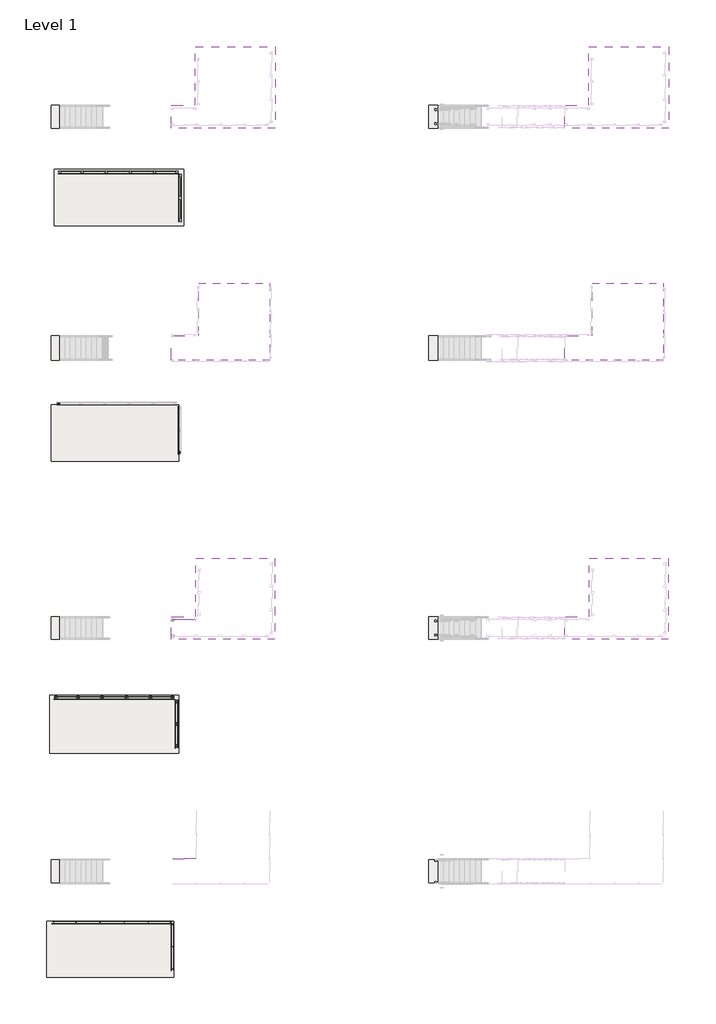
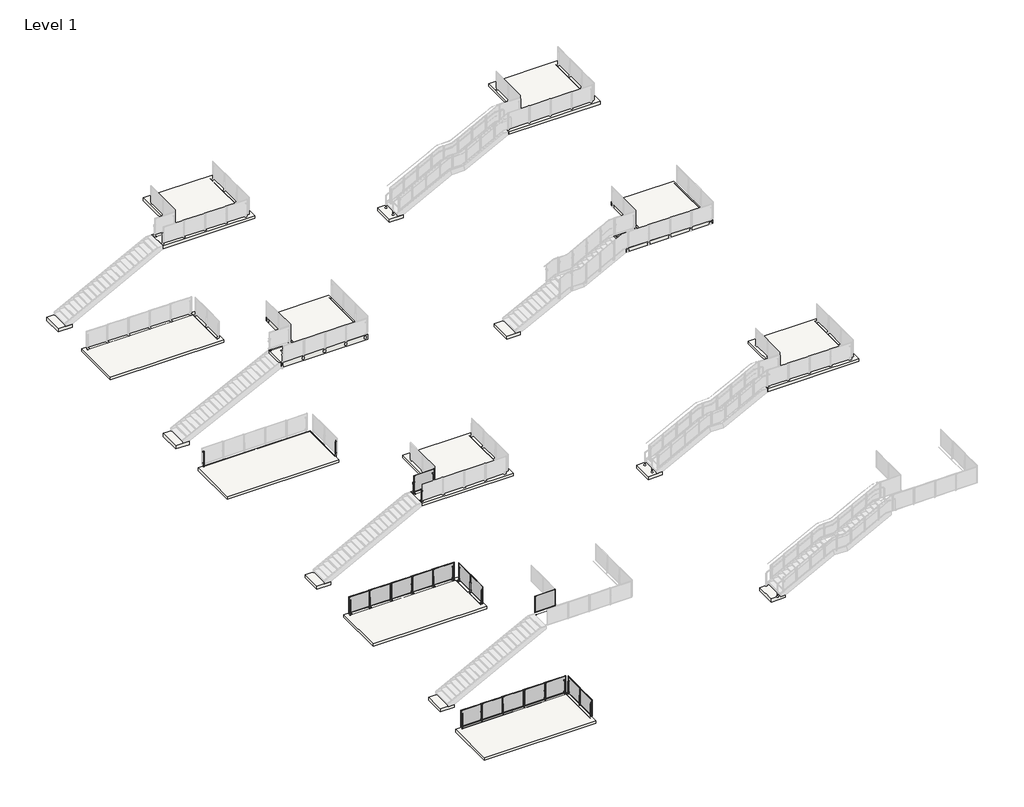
# One storey, part 1 of 28: 18 slabs, 12 proxies, 6 railings.
"""IFC4 building model written with IfcOpenShell, lengths in millimetres."""

from ifc_helpers import new_model, si_unit, point, frame, frame_2d, origin, origin_with_axes, place, context, project, spatial, polyline, circle_curve, trimmed, segment, composite_curve, outline, extrude, transform, mapped, element, save
from components import building_element_proxy_d87515a7, building_element_proxy_a79f7dfa, building_element_proxy_f0dd287b, building_element_proxy_dd0e699c, building_element_proxy_88367a16, building_element_proxy_bd17ef1f, building_element_proxy_0a0706d1

model = new_model("IFC4")

# Units and contexts
model_context = context("Model", 3, world=origin())
ifc_project = project(units=[si_unit("LENGTHUNIT", "METRE", prefix="MILLI")], contexts=[model_context])

# Site, building, storey
site = spatial("IfcSite", under=ifc_project)
building = spatial("IfcBuilding", under=site)
storey = spatial("IfcBuildingStorey", under=building, Name="Level 1", Elevation=0.0)

# Proxies
placement = place(None, origin())
building_element_proxy_shape = building_element_proxy_d87515a7(model_context)
element("IfcBuildingElementProxy", 1, Name="Baluster-End-Post-VIVA-STRUC-Top Mount : ANCHORED TO CONCRETE_TOP MOUNT STRUC_STRAIGHT", ObjectType="Baluster-End-Post-VIVA-STRUC-Top Mount : ANCHORED TO CONCRETE_TOP MOUNT STRUC_STRAIGHT", at=placement, inside=storey, context=model_context, shape_type="MappedRepresentation", body=[
    mapped(building_element_proxy_shape, transform((-32907.4137821, -21750.6777859, -0.508), x_axis=(-1.0, 0.0, 0.0), y_axis=(0.0, -1.0, 0.0), z_axis=(0.0, 0.0, 1.0))),
])
building_element_proxy_2_shape = building_element_proxy_a79f7dfa(model_context)
element("IfcBuildingElementProxy", 2, Name="Baluster-End-Post-VIVA-STRUC-Top Mount : WELDED STEEL CHANNEL_TOP MOUNT STRUC_STRAIGHT", ObjectType="Baluster-End-Post-VIVA-STRUC-Top Mount : WELDED STEEL CHANNEL_TOP MOUNT STRUC_STRAIGHT", at=placement, inside=storey, context=model_context, shape_type="MappedRepresentation", body=[
    mapped(building_element_proxy_2_shape, transform((-33016.7678099, -33571.9733743, -0.508), x_axis=(-1.0, 0.0, 0.0), y_axis=(0.0, -1.0, 0.0), z_axis=(0.0, 0.0, 1.0))),
])
building_element_proxy_3_shape = building_element_proxy_f0dd287b(model_context)
element("IfcBuildingElementProxy", 3, Name="Baluster-End-Post-VIVA-STRUC-Top Mount : WELDED Fascia MOUNT STRUC_STRAIGHT", ObjectType="Baluster-End-Post-VIVA-STRUC-Top Mount : WELDED Fascia MOUNT STRUC_STRAIGHT", at=placement, inside=storey, context=model_context, shape_type="MappedRepresentation", body=[
    mapped(building_element_proxy_3_shape, transform((-32705.8487034, -8860.5967002, -0.508), x_axis=(0.0, 1.0, 0.0), y_axis=(-1.0, 0.0, 0.0), z_axis=(0.0, 0.0, 1.0))),
])
building_element_proxy_4_shape = building_element_proxy_dd0e699c(model_context)
element("IfcBuildingElementProxy", 4, Name="Baluster-End-Post-VIVA-STRUC-Top Mount : WELDED STEEL CHANNEL_TOP MOUNT STRUC_STRAIGHT", ObjectType="Baluster-End-Post-VIVA-STRUC-Top Mount : WELDED STEEL CHANNEL_TOP MOUNT STRUC_STRAIGHT", at=placement, inside=storey, context=model_context, shape_type="MappedRepresentation", body=[
    mapped(building_element_proxy_4_shape, transform((-33077.7262871, -33517.4255817, -0.508), x_axis=(0.0, 1.0, 0.0), y_axis=(-1.0, 0.0, 0.0), z_axis=(0.0, 0.0, 1.0))),
])
element("IfcBuildingElementProxy", 5, Name="Baluster-End-Post-VIVA-STRUC-Top Mount : WELDED STEEL CHANNEL_TOP MOUNT STRUC_STRAIGHT", ObjectType="Baluster-End-Post-VIVA-STRUC-Top Mount : WELDED STEEL CHANNEL_TOP MOUNT STRUC_STRAIGHT", at=placement, inside=storey, context=model_context, shape_type="MappedRepresentation", body=[
    mapped(building_element_proxy_2_shape, transform((-33077.7262871, -36057.4255817, -0.508), x_axis=(0.0, 1.0, 0.0), y_axis=(-1.0, 0.0, 0.0), z_axis=(0.0, 0.0, 1.0))),
])
building_element_proxy_5_shape = building_element_proxy_88367a16(model_context)
element("IfcBuildingElementProxy", 6, Name="Baluster-End-Post-VIVA-STRUC-Top Mount : ANCHORED TO CONCRETE_TOP MOUNT STRUC_STRAIGHT", ObjectType="Baluster-End-Post-VIVA-STRUC-Top Mount : ANCHORED TO CONCRETE_TOP MOUNT STRUC_STRAIGHT", at=placement, inside=storey, context=model_context, shape_type="MappedRepresentation", body=[
    mapped(building_element_proxy_5_shape, transform((-32869.9472593, -21788.2049932, -0.508), x_axis=(0.0, 1.0, 0.0), y_axis=(-1.0, 0.0, 0.0), z_axis=(0.0, 0.0, 1.0))),
])
element("IfcBuildingElementProxy", 7, Name="Baluster-End-Post-VIVA-STRUC-Top Mount : ANCHORED TO CONCRETE_TOP MOUNT STRUC_STRAIGHT", ObjectType="Baluster-End-Post-VIVA-STRUC-Top Mount : ANCHORED TO CONCRETE_TOP MOUNT STRUC_STRAIGHT", at=placement, inside=storey, context=model_context, shape_type="MappedRepresentation", body=[
    mapped(building_element_proxy_shape, transform((-32869.9472593, -24328.2049932, -0.508), x_axis=(0.0, 1.0, 0.0), y_axis=(-1.0, 0.0, 0.0), z_axis=(0.0, 0.0, 1.0))),
])
element("IfcBuildingElementProxy", 8, Name="Baluster-End-Post-VIVA-STRUC-Top Mount : ANCHORED TO CONCRETE_TOP MOUNT STRUC_STRAIGHT", ObjectType="Baluster-End-Post-VIVA-STRUC-Top Mount : ANCHORED TO CONCRETE_TOP MOUNT STRUC_STRAIGHT", at=placement, inside=storey, context=model_context, shape_type="MappedRepresentation", body=[
    mapped(building_element_proxy_5_shape, transform((-39257.4137821, -21750.6777859, -0.508), x_axis=(-1.0, 0.0, 0.0), y_axis=(0.0, -1.0, 0.0), z_axis=(0.0, 0.0, 1.0))),
])
element("IfcBuildingElementProxy", 9, Name="Baluster-End-Post-VIVA-STRUC-Top Mount : WELDED STEEL CHANNEL_TOP MOUNT STRUC_STRAIGHT", ObjectType="Baluster-End-Post-VIVA-STRUC-Top Mount : WELDED STEEL CHANNEL_TOP MOUNT STRUC_STRAIGHT", at=placement, inside=storey, context=model_context, shape_type="MappedRepresentation", body=[
    mapped(building_element_proxy_4_shape, transform((-39366.7678099, -33571.9733743, -0.508), x_axis=(-1.0, 0.0, 0.0), y_axis=(0.0, -1.0, 0.0), z_axis=(0.0, 0.0, 1.0))),
])
building_element_proxy_6_shape = building_element_proxy_bd17ef1f(model_context)
element("IfcBuildingElementProxy", 10, Name="Baluster-End-Post-VIVA-STRUC-Top Mount : WELDED Fascia MOUNT STRUC_STRAIGHT", ObjectType="Baluster-End-Post-VIVA-STRUC-Top Mount : WELDED Fascia MOUNT STRUC_STRAIGHT", at=placement, inside=storey, context=model_context, shape_type="MappedRepresentation", body=[
    mapped(building_element_proxy_6_shape, transform((-39120.1701703, -6257.9599803, -0.508), x_axis=(-1.0, 0.0, 0.0), y_axis=(0.0, -1.0, 0.0), z_axis=(0.0, 0.0, 1.0))),
])
building_element_proxy_7_shape = building_element_proxy_0a0706d1(model_context)
element("IfcBuildingElementProxy", 11, Name="Baluster-End-Post-VIVA-STRUC-Top Mount-Stair : ANCHORED TO CONCRETE_TOP MOUNT STRUC_STAIR", ObjectType="Baluster-End-Post-VIVA-STRUC-Top Mount-Stair : ANCHORED TO CONCRETE_TOP MOUNT STRUC_STAIR", at=placement, inside=storey, context=model_context, shape_type="MappedRepresentation", body=[
    mapped(building_element_proxy_7_shape, transform((-33016.8813244, -18320.1106387, 3556.635), x_axis=(1.0, 0.0, 0.0), y_axis=(0.0, 1.0, 0.0), z_axis=(0.0, 0.0, 1.0))),
])
element("IfcBuildingElementProxy", 12, Name="Baluster-End-Post-VIVA-STRUC-Top Mount-Stair : ANCHORED TO CONCRETE_TOP MOUNT STRUC_STAIR", ObjectType="Baluster-End-Post-VIVA-STRUC-Top Mount-Stair : ANCHORED TO CONCRETE_TOP MOUNT STRUC_STAIR", at=placement, inside=storey, context=model_context, shape_type="MappedRepresentation", body=[
    mapped(building_element_proxy_7_shape, transform((-33016.8813244, -17684.6002387, 3556.635), x_axis=(-1.0, 0.0, 0.0), y_axis=(0.0, -1.0, 0.0), z_axis=(0.0, 0.0, 1.0))),
])

# Railings
element("IfcRailing", 13, ObjectType="Metal-Panel-VIVA-STRUC-Slab-Top-Anchor-Straight", at=placement, inside=storey, context=model_context, shape_type="SweptSolid", body=[
    extrude(outline(composite_curve([segment(trimmed(circle_curve(frame_2d((-0.254, -32869.9472593)), 0.254), [point((-0.254, -32870.2012593))], [point((-0.254, -32869.6932593))], False, "CARTESIAN"), True, "CONTINUOUS"), segment(trimmed(circle_curve(frame_2d((-0.254, -32869.9472593)), 0.254), [point((-0.254, -32869.6932593))], [point((-0.254, -32870.2012593))], False, "CARTESIAN"), True, "CONTINUOUS")], self_intersect=False)), frame((0.0, -24328.2049932, 0.0), z_axis=(0.0, 1.0, 0.0), x_axis=(0.0, 0.0, 1.0)), (0.0, 0.0, 1.0), 2540.0),
    extrude(outline(composite_curve([segment(trimmed(circle_curve(frame_2d((-0.254, -32869.9472593)), 0.254), [point((-0.254, -32870.2012593))], [point((-0.254, -32869.6932593))], False, "CARTESIAN"), True, "CONTINUOUS"), segment(trimmed(circle_curve(frame_2d((-0.254, -32869.9472593)), 0.254), [point((-0.254, -32869.6932593))], [point((-0.254, -32870.2012593))], False, "CARTESIAN"), True, "CONTINUOUS")], self_intersect=False)), frame((0.0, -24328.2049932, 0.0), z_axis=(0.0, 1.0, 0.0), x_axis=(0.0, 0.0, 1.0)), (0.0, 0.0, 1.0), 2540.0),
    extrude(outline(polyline([(-32743.0982593, -23099.0314502), (-32743.0982593, -24287.3785363), (-32746.0982593, -24287.3785363), (-32746.0982593, -23099.0314502), (-32743.0982593, -23099.0314502)])), frame((0.0, 0.0, 76.1959569), z_axis=(0.0, 0.0, 1.0), x_axis=(1.0, 0.0, 0.0)), (0.0, 0.0, 1.0), 990.5826861),
    extrude(outline(polyline([(-23073.6314502, 1092.1786431), (-23073.6314502, 50.7959569), (-24312.7785363, 50.7959569), (-24312.7785363, 1092.1786431), (-23073.6314502, 1092.1786431)]), holes=[polyline([(-23099.0314502, 76.1959569), (-23099.0314502, 1066.7786431), (-24287.3785363, 1066.7786431), (-24287.3785363, 76.1959569), (-23099.0314502, 76.1959569)])]), frame((-32746.0982593, 0.0, 0.0), z_axis=(1.0, 0.0, 0.0), x_axis=(0.0, 1.0, 0.0)), (0.0, 0.0, 1.0), 9.525),
    extrude(outline(polyline([(-32753.2088593, -23020.104274), (-32746.0968593, -23020.104274), (-32746.0968593, -23096.3057125), (-32753.2088593, -23096.3057125), (-32753.2088593, -23020.104274)])), frame((0.0, 0.0, 569.976), z_axis=(0.0, 0.0, 1.0), x_axis=(1.0, 0.0, 0.0)), (0.0, 0.0, 1.0), 50.8),
    extrude(outline(polyline([(-32753.2088593, -23020.104274), (-32746.0968593, -23020.104274), (-32746.0968593, -23096.3057125), (-32753.2088593, -23096.3057125), (-32753.2088593, -23020.104274)])), frame((0.0, 0.0, 112.776), z_axis=(0.0, 0.0, 1.0), x_axis=(1.0, 0.0, 0.0)), (0.0, 0.0, 1.0), 50.8),
    extrude(outline(polyline([(-32841.3214593, -22992.3173932), (-32709.5462593, -22992.3173932), (-32709.5462593, -23124.0925932), (-32841.3214593, -23124.0925932), (-32841.3214593, -22992.3173932)])), origin_with_axes(), (0.0, 0.0, 1.0), 25.4),
    extrude(outline(polyline([(-32797.6588593, -23050.2654016), (-32753.2088593, -23050.2654016), (-32753.2088593, -23066.1445849), (-32797.6588593, -23066.1445849), (-32797.6588593, -23050.2654016)])), origin_with_axes(), (0.0, 0.0, 1.0), 660.4),
    extrude(outline(polyline([(-32743.0982593, -21829.0314502), (-32743.0982593, -23017.3785363), (-32746.0982593, -23017.3785363), (-32746.0982593, -21829.0314502), (-32743.0982593, -21829.0314502)])), frame((0.0, 0.0, 76.1959569), z_axis=(0.0, 0.0, 1.0), x_axis=(1.0, 0.0, 0.0)), (0.0, 0.0, 1.0), 990.5826861),
    extrude(outline(polyline([(-21803.6314502, 1092.1786431), (-21803.6314502, 50.7959569), (-23042.7785363, 50.7959569), (-23042.7785363, 1092.1786431), (-21803.6314502, 1092.1786431)]), holes=[polyline([(-21829.0314502, 76.1959569), (-21829.0314502, 1066.7786431), (-23017.3785363, 1066.7786431), (-23017.3785363, 76.1959569), (-21829.0314502, 76.1959569)])]), frame((-32746.0982593, 0.0, 0.0), z_axis=(1.0, 0.0, 0.0), x_axis=(0.0, 1.0, 0.0)), (0.0, 0.0, 1.0), 9.525),
])
element("IfcRailing", 14, ObjectType="Metal-Panel-VIVA-STRUC-Slab-Top-Anchor-Straight", at=placement, inside=storey, context=model_context, shape_type="SweptSolid", body=[
    extrude(outline(composite_curve([segment(trimmed(circle_curve(frame_2d((-21750.6777859, -0.254)), 0.254), [point((-21750.9317859, -0.254))], [point((-21750.4237859, -0.254))], False, "CARTESIAN"), True, "CONTINUOUS"), segment(trimmed(circle_curve(frame_2d((-21750.6777859, -0.254)), 0.254), [point((-21750.4237859, -0.254))], [point((-21750.9317859, -0.254))], False, "CARTESIAN"), True, "CONTINUOUS")], self_intersect=False)), frame((-39257.4137821, 0.0, 0.0), z_axis=(1.0, 0.0, 0.0), x_axis=(0.0, 1.0, 0.0)), (0.0, 0.0, 1.0), 6350.0),
    extrude(outline(composite_curve([segment(trimmed(circle_curve(frame_2d((-21750.6777859, -0.254)), 0.254), [point((-21750.9317859, -0.254))], [point((-21750.4237859, -0.254))], False, "CARTESIAN"), True, "CONTINUOUS"), segment(trimmed(circle_curve(frame_2d((-21750.6777859, -0.254)), 0.254), [point((-21750.4237859, -0.254))], [point((-21750.9317859, -0.254))], False, "CARTESIAN"), True, "CONTINUOUS")], self_intersect=False)), frame((-39257.4137821, 0.0, 0.0), z_axis=(1.0, 0.0, 0.0), x_axis=(0.0, 1.0, 0.0)), (0.0, 0.0, 1.0), 6350.0),
    extrude(outline(polyline([(-34136.5873251, -21623.8287859), (-32948.240239, -21623.8287859), (-32948.240239, -21626.8287859), (-34136.5873251, -21626.8287859), (-34136.5873251, -21623.8287859)])), frame((0.0, 0.0, 76.1959569), z_axis=(0.0, 0.0, 1.0), x_axis=(1.0, 0.0, 0.0)), (0.0, 0.0, 1.0), 990.5826861),
    extrude(outline(polyline([(1092.1786431, -34161.9873251), (50.7959569, -34161.9873251), (50.7959569, -32922.840239), (1092.1786431, -32922.840239), (1092.1786431, -34161.9873251)]), holes=[polyline([(76.1959569, -34136.5873251), (1066.7786431, -34136.5873251), (1066.7786431, -32948.240239), (76.1959569, -32948.240239), (76.1959569, -34136.5873251)])]), frame((0.0, -21626.8287859, 0.0), z_axis=(0.0, 1.0, 0.0), x_axis=(0.0, 0.0, 1.0)), (0.0, 0.0, 1.0), 9.525),
    extrude(outline(polyline([(-34215.5145013, -21633.9393859), (-34215.5145013, -21626.8273859), (-34139.3130628, -21626.8273859), (-34139.3130628, -21633.9393859), (-34215.5145013, -21633.9393859)])), frame((0.0, 0.0, 569.976), z_axis=(0.0, 0.0, 1.0), x_axis=(1.0, 0.0, 0.0)), (0.0, 0.0, 1.0), 50.8),
    extrude(outline(polyline([(-34215.5145013, -21633.9393859), (-34215.5145013, -21626.8273859), (-34139.3130628, -21626.8273859), (-34139.3130628, -21633.9393859), (-34215.5145013, -21633.9393859)])), frame((0.0, 0.0, 112.776), z_axis=(0.0, 0.0, 1.0), x_axis=(1.0, 0.0, 0.0)), (0.0, 0.0, 1.0), 50.8),
    extrude(outline(polyline([(-34243.3013821, -21722.0519859), (-34243.3013821, -21590.2767859), (-34111.5261821, -21590.2767859), (-34111.5261821, -21722.0519859), (-34243.3013821, -21722.0519859)])), origin_with_axes(), (0.0, 0.0, 1.0), 25.4),
    extrude(outline(polyline([(-34185.3533737, -21678.3893859), (-34185.3533737, -21633.9393859), (-34169.4741904, -21633.9393859), (-34169.4741904, -21678.3893859), (-34185.3533737, -21678.3893859)])), origin_with_axes(), (0.0, 0.0, 1.0), 660.4),
    extrude(outline(polyline([(-35406.5873251, -21623.8287859), (-34218.240239, -21623.8287859), (-34218.240239, -21626.8287859), (-35406.5873251, -21626.8287859), (-35406.5873251, -21623.8287859)])), frame((0.0, 0.0, 76.1959569), z_axis=(0.0, 0.0, 1.0), x_axis=(1.0, 0.0, 0.0)), (0.0, 0.0, 1.0), 990.5826861),
    extrude(outline(polyline([(1092.1786431, -35431.9873251), (50.7959569, -35431.9873251), (50.7959569, -34192.840239), (1092.1786431, -34192.840239), (1092.1786431, -35431.9873251)]), holes=[polyline([(76.1959569, -35406.5873251), (1066.7786431, -35406.5873251), (1066.7786431, -34218.240239), (76.1959569, -34218.240239), (76.1959569, -35406.5873251)])]), frame((0.0, -21626.8287859, 0.0), z_axis=(0.0, 1.0, 0.0), x_axis=(0.0, 0.0, 1.0)), (0.0, 0.0, 1.0), 9.525),
    extrude(outline(polyline([(-35485.5145013, -21633.9393859), (-35485.5145013, -21626.8273859), (-35409.3130628, -21626.8273859), (-35409.3130628, -21633.9393859), (-35485.5145013, -21633.9393859)])), frame((0.0, 0.0, 569.976), z_axis=(0.0, 0.0, 1.0), x_axis=(1.0, 0.0, 0.0)), (0.0, 0.0, 1.0), 50.8),
    extrude(outline(polyline([(-35485.5145013, -21633.9393859), (-35485.5145013, -21626.8273859), (-35409.3130628, -21626.8273859), (-35409.3130628, -21633.9393859), (-35485.5145013, -21633.9393859)])), frame((0.0, 0.0, 112.776), z_axis=(0.0, 0.0, 1.0), x_axis=(1.0, 0.0, 0.0)), (0.0, 0.0, 1.0), 50.8),
    extrude(outline(polyline([(-35513.3013821, -21722.0519859), (-35513.3013821, -21590.2767859), (-35381.5261821, -21590.2767859), (-35381.5261821, -21722.0519859), (-35513.3013821, -21722.0519859)])), origin_with_axes(), (0.0, 0.0, 1.0), 25.4),
    extrude(outline(polyline([(-35455.3533737, -21678.3893859), (-35455.3533737, -21633.9393859), (-35439.4741904, -21633.9393859), (-35439.4741904, -21678.3893859), (-35455.3533737, -21678.3893859)])), origin_with_axes(), (0.0, 0.0, 1.0), 660.4),
    extrude(outline(polyline([(-36676.5873251, -21623.8287859), (-35488.240239, -21623.8287859), (-35488.240239, -21626.8287859), (-36676.5873251, -21626.8287859), (-36676.5873251, -21623.8287859)])), frame((0.0, 0.0, 76.1959569), z_axis=(0.0, 0.0, 1.0), x_axis=(1.0, 0.0, 0.0)), (0.0, 0.0, 1.0), 990.5826861),
    extrude(outline(polyline([(1092.1786431, -36701.9873251), (50.7959569, -36701.9873251), (50.7959569, -35462.840239), (1092.1786431, -35462.840239), (1092.1786431, -36701.9873251)]), holes=[polyline([(76.1959569, -36676.5873251), (1066.7786431, -36676.5873251), (1066.7786431, -35488.240239), (76.1959569, -35488.240239), (76.1959569, -36676.5873251)])]), frame((0.0, -21626.8287859, 0.0), z_axis=(0.0, 1.0, 0.0), x_axis=(0.0, 0.0, 1.0)), (0.0, 0.0, 1.0), 9.525),
    extrude(outline(polyline([(-36755.5145013, -21633.9393859), (-36755.5145013, -21626.8273859), (-36679.3130628, -21626.8273859), (-36679.3130628, -21633.9393859), (-36755.5145013, -21633.9393859)])), frame((0.0, 0.0, 569.976), z_axis=(0.0, 0.0, 1.0), x_axis=(1.0, 0.0, 0.0)), (0.0, 0.0, 1.0), 50.8),
    extrude(outline(polyline([(-36755.5145013, -21633.9393859), (-36755.5145013, -21626.8273859), (-36679.3130628, -21626.8273859), (-36679.3130628, -21633.9393859), (-36755.5145013, -21633.9393859)])), frame((0.0, 0.0, 112.776), z_axis=(0.0, 0.0, 1.0), x_axis=(1.0, 0.0, 0.0)), (0.0, 0.0, 1.0), 50.8),
    extrude(outline(polyline([(-36783.3013821, -21722.0519859), (-36783.3013821, -21590.2767859), (-36651.5261821, -21590.2767859), (-36651.5261821, -21722.0519859), (-36783.3013821, -21722.0519859)])), origin_with_axes(), (0.0, 0.0, 1.0), 25.4),
    extrude(outline(polyline([(-36725.3533737, -21678.3893859), (-36725.3533737, -21633.9393859), (-36709.4741904, -21633.9393859), (-36709.4741904, -21678.3893859), (-36725.3533737, -21678.3893859)])), origin_with_axes(), (0.0, 0.0, 1.0), 660.4),
    extrude(outline(polyline([(-37946.5873251, -21623.8287859), (-36758.240239, -21623.8287859), (-36758.240239, -21626.8287859), (-37946.5873251, -21626.8287859), (-37946.5873251, -21623.8287859)])), frame((0.0, 0.0, 76.1959569), z_axis=(0.0, 0.0, 1.0), x_axis=(1.0, 0.0, 0.0)), (0.0, 0.0, 1.0), 990.5826861),
    extrude(outline(polyline([(1092.1786431, -37971.9873251), (50.7959569, -37971.9873251), (50.7959569, -36732.840239), (1092.1786431, -36732.840239), (1092.1786431, -37971.9873251)]), holes=[polyline([(76.1959569, -37946.5873251), (1066.7786431, -37946.5873251), (1066.7786431, -36758.240239), (76.1959569, -36758.240239), (76.1959569, -37946.5873251)])]), frame((0.0, -21626.8287859, 0.0), z_axis=(0.0, 1.0, 0.0), x_axis=(0.0, 0.0, 1.0)), (0.0, 0.0, 1.0), 9.525),
    extrude(outline(polyline([(-38025.5145013, -21633.9393859), (-38025.5145013, -21626.8273859), (-37949.3130628, -21626.8273859), (-37949.3130628, -21633.9393859), (-38025.5145013, -21633.9393859)])), frame((0.0, 0.0, 569.976), z_axis=(0.0, 0.0, 1.0), x_axis=(1.0, 0.0, 0.0)), (0.0, 0.0, 1.0), 50.8),
    extrude(outline(polyline([(-38025.5145013, -21633.9393859), (-38025.5145013, -21626.8273859), (-37949.3130628, -21626.8273859), (-37949.3130628, -21633.9393859), (-38025.5145013, -21633.9393859)])), frame((0.0, 0.0, 112.776), z_axis=(0.0, 0.0, 1.0), x_axis=(1.0, 0.0, 0.0)), (0.0, 0.0, 1.0), 50.8),
    extrude(outline(polyline([(-38053.3013821, -21722.0519859), (-38053.3013821, -21590.2767859), (-37921.5261821, -21590.2767859), (-37921.5261821, -21722.0519859), (-38053.3013821, -21722.0519859)])), origin_with_axes(), (0.0, 0.0, 1.0), 25.4),
    extrude(outline(polyline([(-37995.3533737, -21678.3893859), (-37995.3533737, -21633.9393859), (-37979.4741904, -21633.9393859), (-37979.4741904, -21678.3893859), (-37995.3533737, -21678.3893859)])), origin_with_axes(), (0.0, 0.0, 1.0), 660.4),
    extrude(outline(polyline([(-39216.5873251, -21623.8287859), (-38028.240239, -21623.8287859), (-38028.240239, -21626.8287859), (-39216.5873251, -21626.8287859), (-39216.5873251, -21623.8287859)])), frame((0.0, 0.0, 76.1959569), z_axis=(0.0, 0.0, 1.0), x_axis=(1.0, 0.0, 0.0)), (0.0, 0.0, 1.0), 990.5826861),
    extrude(outline(polyline([(1092.1786431, -39241.9873251), (50.7959569, -39241.9873251), (50.7959569, -38002.840239), (1092.1786431, -38002.840239), (1092.1786431, -39241.9873251)]), holes=[polyline([(76.1959569, -39216.5873251), (1066.7786431, -39216.5873251), (1066.7786431, -38028.240239), (76.1959569, -38028.240239), (76.1959569, -39216.5873251)])]), frame((0.0, -21626.8287859, 0.0), z_axis=(0.0, 1.0, 0.0), x_axis=(0.0, 0.0, 1.0)), (0.0, 0.0, 1.0), 9.525),
])
element("IfcRailing", 15, ObjectType="Metal-Panel-VIVA-STRUC-Slab-Top-Weld-Straight", at=placement, inside=storey, context=model_context, shape_type="SweptSolid", body=[
    extrude(outline(composite_curve([segment(trimmed(circle_curve(frame_2d((-0.254, -33077.7262871)), 0.254), [point((-0.254, -33077.9802871))], [point((-0.254, -33077.4722871))], False, "CARTESIAN"), True, "CONTINUOUS"), segment(trimmed(circle_curve(frame_2d((-0.254, -33077.7262871)), 0.254), [point((-0.254, -33077.4722871))], [point((-0.254, -33077.9802871))], False, "CARTESIAN"), True, "CONTINUOUS")], self_intersect=False)), frame((0.0, -36057.4255817, 0.0), z_axis=(0.0, 1.0, 0.0), x_axis=(0.0, 0.0, 1.0)), (0.0, 0.0, 1.0), 2540.0),
    extrude(outline(composite_curve([segment(trimmed(circle_curve(frame_2d((-0.254, -33077.7262871)), 0.254), [point((-0.254, -33077.9802871))], [point((-0.254, -33077.4722871))], False, "CARTESIAN"), True, "CONTINUOUS"), segment(trimmed(circle_curve(frame_2d((-0.254, -33077.7262871)), 0.254), [point((-0.254, -33077.4722871))], [point((-0.254, -33077.9802871))], False, "CARTESIAN"), True, "CONTINUOUS")], self_intersect=False)), frame((0.0, -36057.4255817, 0.0), z_axis=(0.0, 1.0, 0.0), x_axis=(0.0, 0.0, 1.0)), (0.0, 0.0, 1.0), 2540.0),
    extrude(outline(polyline([(-32950.8772871, -34828.2520386), (-32950.8772871, -36016.5991247), (-32953.8772871, -36016.5991247), (-32953.8772871, -34828.2520386), (-32950.8772871, -34828.2520386)])), frame((0.0, 0.0, 76.1959569), z_axis=(0.0, 0.0, 1.0), x_axis=(1.0, 0.0, 0.0)), (0.0, 0.0, 1.0), 990.5826861),
    extrude(outline(polyline([(-34802.8520386, 1092.1786431), (-34802.8520386, 50.7959569), (-36041.9991247, 50.7959569), (-36041.9991247, 1092.1786431), (-34802.8520386, 1092.1786431)]), holes=[polyline([(-34828.2520386, 76.1959569), (-34828.2520386, 1066.7786431), (-36016.5991247, 1066.7786431), (-36016.5991247, 76.1959569), (-34828.2520386, 76.1959569)])]), frame((-32953.8772871, 0.0, 0.0), z_axis=(1.0, 0.0, 0.0), x_axis=(0.0, 1.0, 0.0)), (0.0, 0.0, 1.0), 9.525),
    extrude(outline(polyline([(-32960.9878871, -34749.3248624), (-32953.8758871, -34749.3248624), (-32953.8758871, -34825.5263009), (-32960.9878871, -34825.5263009), (-32960.9878871, -34749.3248624)])), frame((0.0, 0.0, 569.976), z_axis=(0.0, 0.0, 1.0), x_axis=(1.0, 0.0, 0.0)), (0.0, 0.0, 1.0), 50.8),
    extrude(outline(polyline([(-32960.9878871, -34749.3248624), (-32953.8758871, -34749.3248624), (-32953.8758871, -34825.5263009), (-32960.9878871, -34825.5263009), (-32960.9878871, -34749.3248624)])), frame((0.0, 0.0, 112.776), z_axis=(0.0, 0.0, 1.0), x_axis=(1.0, 0.0, 0.0)), (0.0, 0.0, 1.0), 50.8),
    extrude(outline(polyline([(-33005.4378871, -34779.48599), (-32960.9878871, -34779.48599), (-32960.9878871, -34795.3651733), (-33005.4378871, -34795.3651733), (-33005.4378871, -34779.48599)])), origin_with_axes(), (0.0, 0.0, 1.0), 660.4),
    extrude(outline(polyline([(-32950.8772871, -33558.2520386), (-32950.8772871, -34746.5991247), (-32953.8772871, -34746.5991247), (-32953.8772871, -33558.2520386), (-32950.8772871, -33558.2520386)])), frame((0.0, 0.0, 76.1959569), z_axis=(0.0, 0.0, 1.0), x_axis=(1.0, 0.0, 0.0)), (0.0, 0.0, 1.0), 990.5826861),
    extrude(outline(polyline([(-33532.8520386, 1092.1786431), (-33532.8520386, 50.7959569), (-34771.9991247, 50.7959569), (-34771.9991247, 1092.1786431), (-33532.8520386, 1092.1786431)]), holes=[polyline([(-33558.2520386, 76.1959569), (-33558.2520386, 1066.7786431), (-34746.5991247, 1066.7786431), (-34746.5991247, 76.1959569), (-33558.2520386, 76.1959569)])]), frame((-32953.8772871, 0.0, 0.0), z_axis=(1.0, 0.0, 0.0), x_axis=(0.0, 1.0, 0.0)), (0.0, 0.0, 1.0), 9.525),
])
element("IfcRailing", 16, ObjectType="Metal-Panel-VIVA-STRUC-Slab-Top-Weld-Straight", at=placement, inside=storey, context=model_context, shape_type="SweptSolid", body=[
    extrude(outline(composite_curve([segment(trimmed(circle_curve(frame_2d((-33571.9733743, -0.254)), 0.254), [point((-33572.2273743, -0.254))], [point((-33571.7193743, -0.254))], False, "CARTESIAN"), True, "CONTINUOUS"), segment(trimmed(circle_curve(frame_2d((-33571.9733743, -0.254)), 0.254), [point((-33571.7193743, -0.254))], [point((-33572.2273743, -0.254))], False, "CARTESIAN"), True, "CONTINUOUS")], self_intersect=False)), frame((-39366.7678099, 0.0, 0.0), z_axis=(1.0, 0.0, 0.0), x_axis=(0.0, 1.0, 0.0)), (0.0, 0.0, 1.0), 6350.0),
    extrude(outline(composite_curve([segment(trimmed(circle_curve(frame_2d((-33571.9733743, -0.254)), 0.254), [point((-33572.2273743, -0.254))], [point((-33571.7193743, -0.254))], False, "CARTESIAN"), True, "CONTINUOUS"), segment(trimmed(circle_curve(frame_2d((-33571.9733743, -0.254)), 0.254), [point((-33571.7193743, -0.254))], [point((-33572.2273743, -0.254))], False, "CARTESIAN"), True, "CONTINUOUS")], self_intersect=False)), frame((-39366.7678099, 0.0, 0.0), z_axis=(1.0, 0.0, 0.0), x_axis=(0.0, 1.0, 0.0)), (0.0, 0.0, 1.0), 6350.0),
    extrude(outline(polyline([(-34245.9413529, -33445.1243743), (-33057.5942668, -33445.1243743), (-33057.5942668, -33448.1243743), (-34245.9413529, -33448.1243743), (-34245.9413529, -33445.1243743)])), frame((0.0, 0.0, 76.1959569), z_axis=(0.0, 0.0, 1.0), x_axis=(1.0, 0.0, 0.0)), (0.0, 0.0, 1.0), 990.5826861),
    extrude(outline(polyline([(1092.1786431, -34271.3413529), (50.7959569, -34271.3413529), (50.7959569, -33032.1942668), (1092.1786431, -33032.1942668), (1092.1786431, -34271.3413529)]), holes=[polyline([(76.1959569, -34245.9413529), (1066.7786431, -34245.9413529), (1066.7786431, -33057.5942668), (76.1959569, -33057.5942668), (76.1959569, -34245.9413529)])]), frame((0.0, -33448.1243743, 0.0), z_axis=(0.0, 1.0, 0.0), x_axis=(0.0, 0.0, 1.0)), (0.0, 0.0, 1.0), 9.525),
    extrude(outline(polyline([(-34324.8685291, -33455.2349743), (-34324.8685291, -33448.1229743), (-34248.6670906, -33448.1229743), (-34248.6670906, -33455.2349743), (-34324.8685291, -33455.2349743)])), frame((0.0, 0.0, 569.976), z_axis=(0.0, 0.0, 1.0), x_axis=(1.0, 0.0, 0.0)), (0.0, 0.0, 1.0), 50.8),
    extrude(outline(polyline([(-34324.8685291, -33455.2349743), (-34324.8685291, -33448.1229743), (-34248.6670906, -33448.1229743), (-34248.6670906, -33455.2349743), (-34324.8685291, -33455.2349743)])), frame((0.0, 0.0, 112.776), z_axis=(0.0, 0.0, 1.0), x_axis=(1.0, 0.0, 0.0)), (0.0, 0.0, 1.0), 50.8),
    extrude(outline(polyline([(-34294.7074015, -33499.6849743), (-34294.7074015, -33455.2349743), (-34278.8282182, -33455.2349743), (-34278.8282182, -33499.6849743), (-34294.7074015, -33499.6849743)])), origin_with_axes(), (0.0, 0.0, 1.0), 660.4),
    extrude(outline(polyline([(-35515.9413529, -33445.1243743), (-34327.5942668, -33445.1243743), (-34327.5942668, -33448.1243743), (-35515.9413529, -33448.1243743), (-35515.9413529, -33445.1243743)])), frame((0.0, 0.0, 76.1959569), z_axis=(0.0, 0.0, 1.0), x_axis=(1.0, 0.0, 0.0)), (0.0, 0.0, 1.0), 990.5826861),
    extrude(outline(polyline([(1092.1786431, -35541.3413529), (50.7959569, -35541.3413529), (50.7959569, -34302.1942668), (1092.1786431, -34302.1942668), (1092.1786431, -35541.3413529)]), holes=[polyline([(76.1959569, -35515.9413529), (1066.7786431, -35515.9413529), (1066.7786431, -34327.5942668), (76.1959569, -34327.5942668), (76.1959569, -35515.9413529)])]), frame((0.0, -33448.1243743, 0.0), z_axis=(0.0, 1.0, 0.0), x_axis=(0.0, 0.0, 1.0)), (0.0, 0.0, 1.0), 9.525),
    extrude(outline(polyline([(-35594.8685291, -33455.2349743), (-35594.8685291, -33448.1229743), (-35518.6670906, -33448.1229743), (-35518.6670906, -33455.2349743), (-35594.8685291, -33455.2349743)])), frame((0.0, 0.0, 569.976), z_axis=(0.0, 0.0, 1.0), x_axis=(1.0, 0.0, 0.0)), (0.0, 0.0, 1.0), 50.8),
    extrude(outline(polyline([(-35594.8685291, -33455.2349743), (-35594.8685291, -33448.1229743), (-35518.6670906, -33448.1229743), (-35518.6670906, -33455.2349743), (-35594.8685291, -33455.2349743)])), frame((0.0, 0.0, 112.776), z_axis=(0.0, 0.0, 1.0), x_axis=(1.0, 0.0, 0.0)), (0.0, 0.0, 1.0), 50.8),
    extrude(outline(polyline([(-35564.7074015, -33499.6849743), (-35564.7074015, -33455.2349743), (-35548.8282182, -33455.2349743), (-35548.8282182, -33499.6849743), (-35564.7074015, -33499.6849743)])), origin_with_axes(), (0.0, 0.0, 1.0), 660.4),
    extrude(outline(polyline([(-36785.9413529, -33445.1243743), (-35597.5942668, -33445.1243743), (-35597.5942668, -33448.1243743), (-36785.9413529, -33448.1243743), (-36785.9413529, -33445.1243743)])), frame((0.0, 0.0, 76.1959569), z_axis=(0.0, 0.0, 1.0), x_axis=(1.0, 0.0, 0.0)), (0.0, 0.0, 1.0), 990.5826861),
    extrude(outline(polyline([(1092.1786431, -36811.3413529), (50.7959569, -36811.3413529), (50.7959569, -35572.1942668), (1092.1786431, -35572.1942668), (1092.1786431, -36811.3413529)]), holes=[polyline([(76.1959569, -36785.9413529), (1066.7786431, -36785.9413529), (1066.7786431, -35597.5942668), (76.1959569, -35597.5942668), (76.1959569, -36785.9413529)])]), frame((0.0, -33448.1243743, 0.0), z_axis=(0.0, 1.0, 0.0), x_axis=(0.0, 0.0, 1.0)), (0.0, 0.0, 1.0), 9.525),
    extrude(outline(polyline([(-36864.8685291, -33455.2349743), (-36864.8685291, -33448.1229743), (-36788.6670906, -33448.1229743), (-36788.6670906, -33455.2349743), (-36864.8685291, -33455.2349743)])), frame((0.0, 0.0, 569.976), z_axis=(0.0, 0.0, 1.0), x_axis=(1.0, 0.0, 0.0)), (0.0, 0.0, 1.0), 50.8),
    extrude(outline(polyline([(-36864.8685291, -33455.2349743), (-36864.8685291, -33448.1229743), (-36788.6670906, -33448.1229743), (-36788.6670906, -33455.2349743), (-36864.8685291, -33455.2349743)])), frame((0.0, 0.0, 112.776), z_axis=(0.0, 0.0, 1.0), x_axis=(1.0, 0.0, 0.0)), (0.0, 0.0, 1.0), 50.8),
    extrude(outline(polyline([(-36834.7074015, -33499.6849743), (-36834.7074015, -33455.2349743), (-36818.8282182, -33455.2349743), (-36818.8282182, -33499.6849743), (-36834.7074015, -33499.6849743)])), origin_with_axes(), (0.0, 0.0, 1.0), 660.4),
    extrude(outline(polyline([(-38055.9413529, -33445.1243743), (-36867.5942668, -33445.1243743), (-36867.5942668, -33448.1243743), (-38055.9413529, -33448.1243743), (-38055.9413529, -33445.1243743)])), frame((0.0, 0.0, 76.1959569), z_axis=(0.0, 0.0, 1.0), x_axis=(1.0, 0.0, 0.0)), (0.0, 0.0, 1.0), 990.5826861),
    extrude(outline(polyline([(1092.1786431, -38081.3413529), (50.7959569, -38081.3413529), (50.7959569, -36842.1942668), (1092.1786431, -36842.1942668), (1092.1786431, -38081.3413529)]), holes=[polyline([(76.1959569, -38055.9413529), (1066.7786431, -38055.9413529), (1066.7786431, -36867.5942668), (76.1959569, -36867.5942668), (76.1959569, -38055.9413529)])]), frame((0.0, -33448.1243743, 0.0), z_axis=(0.0, 1.0, 0.0), x_axis=(0.0, 0.0, 1.0)), (0.0, 0.0, 1.0), 9.525),
    extrude(outline(polyline([(-38134.8685291, -33455.2349743), (-38134.8685291, -33448.1229743), (-38058.6670906, -33448.1229743), (-38058.6670906, -33455.2349743), (-38134.8685291, -33455.2349743)])), frame((0.0, 0.0, 569.976), z_axis=(0.0, 0.0, 1.0), x_axis=(1.0, 0.0, 0.0)), (0.0, 0.0, 1.0), 50.8),
    extrude(outline(polyline([(-38134.8685291, -33455.2349743), (-38134.8685291, -33448.1229743), (-38058.6670906, -33448.1229743), (-38058.6670906, -33455.2349743), (-38134.8685291, -33455.2349743)])), frame((0.0, 0.0, 112.776), z_axis=(0.0, 0.0, 1.0), x_axis=(1.0, 0.0, 0.0)), (0.0, 0.0, 1.0), 50.8),
    extrude(outline(polyline([(-38104.7074015, -33499.6849743), (-38104.7074015, -33455.2349743), (-38088.8282182, -33455.2349743), (-38088.8282182, -33499.6849743), (-38104.7074015, -33499.6849743)])), origin_with_axes(), (0.0, 0.0, 1.0), 660.4),
    extrude(outline(polyline([(-39325.9413529, -33445.1243743), (-38137.5942668, -33445.1243743), (-38137.5942668, -33448.1243743), (-39325.9413529, -33448.1243743), (-39325.9413529, -33445.1243743)])), frame((0.0, 0.0, 76.1959569), z_axis=(0.0, 0.0, 1.0), x_axis=(1.0, 0.0, 0.0)), (0.0, 0.0, 1.0), 990.5826861),
    extrude(outline(polyline([(1092.1786431, -39351.3413529), (50.7959569, -39351.3413529), (50.7959569, -38112.1942668), (1092.1786431, -38112.1942668), (1092.1786431, -39351.3413529)]), holes=[polyline([(76.1959569, -39325.9413529), (1066.7786431, -39325.9413529), (1066.7786431, -38137.5942668), (76.1959569, -38137.5942668), (76.1959569, -39325.9413529)])]), frame((0.0, -33448.1243743, 0.0), z_axis=(0.0, 1.0, 0.0), x_axis=(0.0, 0.0, 1.0)), (0.0, 0.0, 1.0), 9.525),
])
element("IfcRailing", 17, ObjectType="Metal-Panel-VIVA-STRUC-Slab-Top-Weld-Straight", at=placement, inside=storey, context=model_context, shape_type="SweptSolid", body=[
    extrude(outline(composite_curve([segment(trimmed(circle_curve(frame_2d((-30288.2234464, 3047.746)), 0.254), [point((-30288.4774464, 3047.746))], [point((-30287.9694464, 3047.746))], False, "CARTESIAN"), True, "CONTINUOUS"), segment(trimmed(circle_curve(frame_2d((-30288.2234464, 3047.746)), 0.254), [point((-30287.9694464, 3047.746))], [point((-30288.4774464, 3047.746))], False, "CARTESIAN"), True, "CONTINUOUS")], self_intersect=False)), frame((-33026.4063244, 0.0, 0.0), z_axis=(1.0, 0.0, 0.0), x_axis=(0.0, 1.0, 0.0)), (0.0, 0.0, 1.0), 1270.0),
    extrude(outline(composite_curve([segment(trimmed(circle_curve(frame_2d((-30288.2234464, 3047.746)), 0.254), [point((-30288.4774464, 3047.746))], [point((-30287.9694464, 3047.746))], False, "CARTESIAN"), True, "CONTINUOUS"), segment(trimmed(circle_curve(frame_2d((-30288.2234464, 3047.746)), 0.254), [point((-30287.9694464, 3047.746))], [point((-30288.4774464, 3047.746))], False, "CARTESIAN"), True, "CONTINUOUS")], self_intersect=False)), frame((-33026.4063244, 0.0, 0.0), z_axis=(1.0, 0.0, 0.0), x_axis=(0.0, 1.0, 0.0)), (0.0, 0.0, 1.0), 1270.0),
    extrude(outline(polyline([(-32985.5798675, -30161.3744464), (-31797.2327814, -30161.3744464), (-31797.2327814, -30164.3744464), (-32985.5798675, -30164.3744464), (-32985.5798675, -30161.3744464)])), frame((0.0, 0.0, 3124.1959569), z_axis=(0.0, 0.0, 1.0), x_axis=(1.0, 0.0, 0.0)), (0.0, 0.0, 1.0), 990.5826861),
    extrude(outline(polyline([(4140.1786431, -33010.9798675), (3098.7959569, -33010.9798675), (3098.7959569, -31771.8327814), (4140.1786431, -31771.8327814), (4140.1786431, -33010.9798675)]), holes=[polyline([(3124.1959569, -32985.5798675), (4114.7786431, -32985.5798675), (4114.7786431, -31797.2327814), (3124.1959569, -31797.2327814), (3124.1959569, -32985.5798675)])]), frame((0.0, -30164.3744464, 0.0), z_axis=(0.0, 1.0, 0.0), x_axis=(0.0, 0.0, 1.0)), (0.0, 0.0, 1.0), 9.525),
])
element("IfcRailing", 18, ObjectType="Metal-Panel-VIVA-STRUC-Slab-Top-Anchor-Straight", at=placement, inside=storey, context=model_context, shape_type="SweptSolid", body=[
    extrude(outline(composite_curve([segment(trimmed(circle_curve(frame_2d((-17681.7618878, 3047.746)), 0.254), [point((-17682.0158878, 3047.746))], [point((-17681.5078878, 3047.746))], False, "CARTESIAN"), True, "CONTINUOUS"), segment(trimmed(circle_curve(frame_2d((-17681.7618878, 3047.746)), 0.254), [point((-17681.5078878, 3047.746))], [point((-17682.0158878, 3047.746))], False, "CARTESIAN"), True, "CONTINUOUS")], self_intersect=False)), frame((-33016.8813244, 0.0, 0.0), z_axis=(1.0, 0.0, 0.0), x_axis=(0.0, 1.0, 0.0)), (0.0, 0.0, 1.0), 1270.0),
    extrude(outline(composite_curve([segment(trimmed(circle_curve(frame_2d((-17681.7618878, 3047.746)), 0.254), [point((-17682.0158878, 3047.746))], [point((-17681.5078878, 3047.746))], False, "CARTESIAN"), True, "CONTINUOUS"), segment(trimmed(circle_curve(frame_2d((-17681.7618878, 3047.746)), 0.254), [point((-17681.5078878, 3047.746))], [point((-17682.0158878, 3047.746))], False, "CARTESIAN"), True, "CONTINUOUS")], self_intersect=False)), frame((-33016.8813244, 0.0, 0.0), z_axis=(1.0, 0.0, 0.0), x_axis=(0.0, 1.0, 0.0)), (0.0, 0.0, 1.0), 1270.0),
    extrude(outline(polyline([(-32976.0548675, -17554.9128878), (-31787.7077814, -17554.9128878), (-31787.7077814, -17557.9128878), (-32976.0548675, -17557.9128878), (-32976.0548675, -17554.9128878)])), frame((0.0, 0.0, 3124.1959569), z_axis=(0.0, 0.0, 1.0), x_axis=(1.0, 0.0, 0.0)), (0.0, 0.0, 1.0), 990.5826861),
    extrude(outline(polyline([(4140.1786431, -33001.4548675), (3098.7959569, -33001.4548675), (3098.7959569, -31762.3077814), (4140.1786431, -31762.3077814), (4140.1786431, -33001.4548675)]), holes=[polyline([(3124.1959569, -32976.0548675), (4114.7786431, -32976.0548675), (4114.7786431, -31787.7077814), (3124.1959569, -31787.7077814), (3124.1959569, -32976.0548675)])]), frame((0.0, -17557.9128878, 0.0), z_axis=(0.0, 1.0, 0.0), x_axis=(0.0, 0.0, 1.0)), (0.0, 0.0, 1.0), 9.525),
])

# Slabs
element("IfcSlab", 19, ObjectType="12\"", at=placement, inside=storey, context=model_context, shape_type="SweptSolid", body=[
    extrude(outline(polyline([(-27879.5772036, -3912.9362112), (-33076.8813244, -3912.9362112), (-33076.8813244, -2611.3362112), (-31635.2093312, -2611.3362112), (-31635.2093312, 157.2637888), (-27879.5772036, 157.2637888), (-27879.5772036, -3912.9362112)])), frame((0.0, 0.0, 2743.2), z_axis=(0.0, 0.0, 1.0), x_axis=(1.0, 0.0, 0.0)), (0.0, 0.0, 1.0), 304.8),
])
element("IfcSlab", 20, ObjectType="Generic - 6.5\"", at=placement, inside=storey, context=model_context, shape_type="SweptSolid", body=[
    extrude(outline(polyline([(-27615.8813244, -18602.3554387), (-33076.8813244, -18602.3554387), (-33076.8813244, -17402.3554387), (-31779.2715244, -17402.3554387), (-31779.2715244, -14335.1554387), (-27615.8813244, -14335.1554387), (-27615.8813244, -18602.3554387)])), frame((0.0, 0.0, 2880.5378), z_axis=(0.0, 0.0, 1.0), x_axis=(1.0, 0.0, 0.0)), (0.0, 0.0, 1.0), 167.4622),
])
element("IfcSlab", 21, ObjectType="Generic - 6.5\"", at=placement, inside=storey, context=model_context, shape_type="SweptSolid", body=[
    extrude(outline(polyline([(-27590.4813244, 8326.1937722), (-33076.8813244, 8326.1937722), (-33076.8813244, 9526.1937722), (-31804.6715244, 9526.1937722), (-31804.6715244, 12618.7937722), (-27590.4813244, 12618.7937722), (-27590.4813244, 8326.1937722)])), frame((0.0, 0.0, 2880.5378), z_axis=(0.0, 0.0, 1.0), x_axis=(1.0, 0.0, 0.0)), (0.0, 0.0, 1.0), 167.4622),
])
element("IfcSlab", 22, ObjectType="Generic - 6.5\"", at=placement, inside=storey, context=model_context, shape_type="SweptSolid", body=[
    extrude(outline(polyline([(-32428.7068244, 3168.7980519), (-39235.9068244, 3168.7980519), (-39235.9068244, 6165.9980519), (-32428.7068244, 6165.9980519), (-32428.7068244, 3168.7980519)])), frame((0.0, 0.0, -167.4622), z_axis=(0.0, 0.0, 1.0), x_axis=(1.0, 0.0, 0.0)), (0.0, 0.0, 1.0), 167.4622),
])
element("IfcSlab", 23, ObjectType="Generic - 6.5\"", at=placement, inside=storey, context=model_context, shape_type="SweptSolid", body=[
    extrude(outline(polyline([(-32684.7161091, -9234.027386), (-39390.3161091, -9234.027386), (-39390.3161091, -6236.827386), (-32684.7161091, -6236.827386), (-32684.7161091, -9234.027386)])), frame((0.0, 0.0, -167.4622), z_axis=(0.0, 0.0, 1.0), x_axis=(1.0, 0.0, 0.0)), (0.0, 0.0, 1.0), 167.4622),
])
element("IfcSlab", 24, ObjectType="Generic - 6.5\"", at=placement, inside=storey, context=model_context, shape_type="SweptSolid", body=[
    extrude(outline(polyline([(-32676.2309177, -24592.3461793), (-39483.4309177, -24592.3461793), (-39483.4309177, -21544.3461793), (-32676.2309177, -21544.3461793), (-32676.2309177, -24592.3461793)])), frame((0.0, 0.0, -167.4622), z_axis=(0.0, 0.0, 1.0), x_axis=(1.0, 0.0, 0.0)), (0.0, 0.0, 1.0), 167.4622),
])
element("IfcSlab", 25, ObjectType="Generic - 6.5\"", at=placement, inside=storey, context=model_context, shape_type="SweptSolid", body=[
    extrude(outline(polyline([(-32957.9158871, -36409.3170677), (-39645.7669108, -36409.3170677), (-39645.7669108, -33452.1629743), (-32957.9158871, -33452.1629743), (-32957.9158871, -36409.3170677)])), frame((0.0, 0.0, -167.4622), z_axis=(0.0, 0.0, 1.0), x_axis=(1.0, 0.0, 0.0)), (0.0, 0.0, 1.0), 167.4622),
])
element("IfcSlab", 26, ObjectType="Generic - 6.5\"", at=placement, inside=storey, context=model_context, shape_type="SweptSolid", body=[
    extrude(outline(polyline([(-6889.4813244, -18602.3554387), (-12350.4813244, -18602.3554387), (-12350.4813244, -17402.3554387), (-11052.8715244, -17402.3554387), (-11052.8715244, -14335.1554387), (-6889.4813244, -14335.1554387), (-6889.4813244, -18602.3554387)])), frame((0.0, 0.0, 2880.5378), z_axis=(0.0, 0.0, 1.0), x_axis=(1.0, 0.0, 0.0)), (0.0, 0.0, 1.0), 167.4622),
])
element("IfcSlab", 27, ObjectType="Generic - 6.5\"", at=placement, inside=storey, context=model_context, shape_type="SweptSolid", body=[
    extrude(outline(polyline([(-6864.0813244, 8326.1937722), (-12350.4813244, 8326.1937722), (-12350.4813244, 9526.1937722), (-11078.2715244, 9526.1937722), (-11078.2715244, 12618.7937722), (-6864.0813244, 12618.7937722), (-6864.0813244, 8326.1937722)])), frame((0.0, 0.0, 2880.5378), z_axis=(0.0, 0.0, 1.0), x_axis=(1.0, 0.0, 0.0)), (0.0, 0.0, 1.0), 167.4622),
])
element("IfcSlab", 28, ObjectType="Generic - 7 3/4\"", at=placement, inside=storey, context=model_context, shape_type="SweptSolid", body=[
    extrude(outline(polyline([(-38563.2813244, 8326.1937722), (-39401.4813244, 8326.1937722), (-39401.4813244, 9526.1937722), (-38563.2813244, 9526.1937722), (-38563.2813244, 8326.1937722)])), frame((0.0, 0.0, -196.088), z_axis=(0.0, 0.0, 1.0), x_axis=(1.0, 0.0, 0.0)), (0.0, 0.0, 1.0), 196.088),
])
element("IfcSlab", 29, ObjectType="Generic - 7 3/4\"", at=placement, inside=storey, context=model_context, shape_type="SweptSolid", body=[
    extrude(outline(polyline([(-38607.7313244, -3912.9362112), (-39407.8313244, -3912.9362112), (-39407.8313244, -2611.3362112), (-38607.7313244, -2611.3362112), (-38607.7313244, -3912.9362112)])), frame((0.0, 0.0, -196.088), z_axis=(0.0, 0.0, 1.0), x_axis=(1.0, 0.0, 0.0)), (0.0, 0.0, 1.0), 196.088),
])
element("IfcSlab", 30, ObjectType="Generic - 7 3/4\"", at=placement, inside=storey, context=model_context, shape_type="SweptSolid", body=[
    extrude(outline(polyline([(-38569.6313244, -18602.3554387), (-39407.8313244, -18602.3554387), (-39407.8313244, -17402.3554387), (-38569.6313244, -17402.3554387), (-38569.6313244, -18602.3554387)])), frame((0.0, 0.0, -196.088), z_axis=(0.0, 0.0, 1.0), x_axis=(1.0, 0.0, 0.0)), (0.0, 0.0, 1.0), 196.088),
])
element("IfcSlab", 31, ObjectType="Generic - 7 3/4\"", at=placement, inside=storey, context=model_context, shape_type="SweptSolid", body=[
    extrude(outline(polyline([(-38569.6313244, -31422.1775116), (-39407.8313244, -31422.1775116), (-39407.8313244, -30222.1775116), (-38569.6313244, -30222.1775116), (-38569.6313244, -31422.1775116)])), frame((0.0, 0.0, -196.088), z_axis=(0.0, 0.0, 1.0), x_axis=(1.0, 0.0, 0.0)), (0.0, 0.0, 1.0), 196.088),
])
element("IfcSlab", 32, ObjectType="Generic - 7 3/4\"", at=placement, inside=storey, context=model_context, shape_type="SweptSolid", body=[
    extrude(outline(polyline([(-18675.0813244, 8326.1937722), (-19513.2813244, 8326.1937722), (-19513.2813244, 9526.1937722), (-18675.0813244, 9526.1937722), (-18675.0813244, 8326.1937722)])), frame((0.0, 0.0, -196.088), z_axis=(0.0, 0.0, 1.0), x_axis=(1.0, 0.0, 0.0)), (0.0, 0.0, 1.0), 196.088),
])
element("IfcSlab", 33, ObjectType="Generic - 7 3/4\"", at=placement, inside=storey, context=model_context, shape_type="SweptSolid", body=[
    extrude(outline(polyline([(-18719.5313244, -3912.9362112), (-19519.6313244, -3912.9362112), (-19519.6313244, -2611.3362112), (-18719.5313244, -2611.3362112), (-18719.5313244, -3912.9362112)])), frame((0.0, 0.0, -196.088), z_axis=(0.0, 0.0, 1.0), x_axis=(1.0, 0.0, 0.0)), (0.0, 0.0, 1.0), 196.088),
])
element("IfcSlab", 34, ObjectType="Generic - 7 3/4\"", at=placement, inside=storey, context=model_context, shape_type="SweptSolid", body=[
    extrude(outline(polyline([(-18681.4313244, -18602.3554387), (-19519.6313244, -18602.3554387), (-19519.6313244, -17402.3554387), (-18681.4313244, -17402.3554387), (-18681.4313244, -18602.3554387)])), frame((0.0, 0.0, -196.088), z_axis=(0.0, 0.0, 1.0), x_axis=(1.0, 0.0, 0.0)), (0.0, 0.0, 1.0), 196.088),
])
element("IfcSlab", 35, ObjectType="Generic - 7 3/4\"", at=placement, inside=storey, context=model_context, shape_type="SweptSolid", body=[
    extrude(outline(polyline([(-18681.4313244, -31422.1775116), (-19519.6313244, -31422.1775116), (-19519.6313244, -30222.1775116), (-18681.4313244, -30222.1775116), (-18681.4313244, -31422.1775116)])), frame((0.0, 0.0, -196.088), z_axis=(0.0, 0.0, 1.0), x_axis=(1.0, 0.0, 0.0)), (0.0, 0.0, 1.0), 196.088),
])
element("IfcSlab", 36, ObjectType="Generic - 9\"", at=placement, inside=storey, context=model_context, shape_type="SweptSolid", body=[
    extrude(outline(polyline([(-7153.1772036, -3912.9362112), (-12350.4813244, -3912.9362112), (-12350.4813244, -2611.3362112), (-10908.8093312, -2611.3362112), (-10908.8093312, 157.2637888), (-7153.1772036, 157.2637888), (-7153.1772036, -3912.9362112)])), frame((0.0, 0.0, 2821.94), z_axis=(0.0, 0.0, 1.0), x_axis=(1.0, 0.0, 0.0)), (0.0, 0.0, 1.0), 226.06),
])

save(model, "model.ifc")
